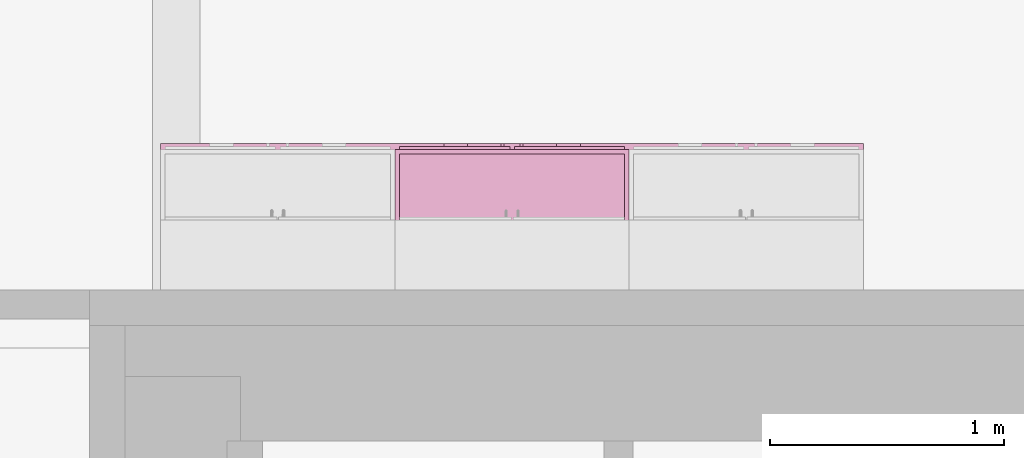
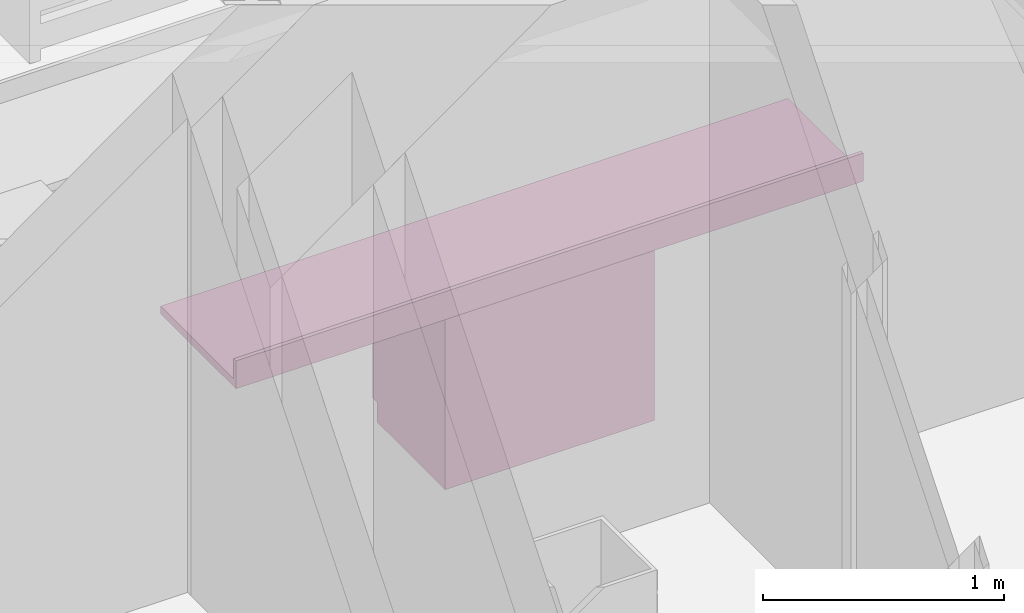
# One storey, part 15 of 18: 2 furnishings, 1 opening.
"""IFC4 building model written with IfcOpenShell, lengths in metres."""

from ifc_helpers import new_model, entity, si_unit, converted_unit, frame, frame_2d, origin, place, context, project, spatial, polyline, circle_curve, parameter, trimmed, segment, composite_curve, outline, extrude, face_set, surface_model, source, transform, mapped, type_object, type_shapes, element, save


model = new_model("IFC4")

# Units and contexts
model_context = context("Model", 3, precision=1e-09, world=origin())
plan_context = context("Plan", 3, precision=1e-09, world=origin())
ifc_project = project(units=[si_unit("LENGTHUNIT", "METRE"), si_unit("AREAUNIT", "SQUARE_METRE"), si_unit("VOLUMEUNIT", "CUBIC_METRE"), converted_unit("PLANEANGLEUNIT", "DEGREE", entity("IfcRatioMeasure", 0.01745329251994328), si_unit("PLANEANGLEUNIT", "RADIAN"), dimensions=[0, 0, 0, 0, 0, 0, 0]), si_unit("TIMEUNIT", "SECOND")], contexts=[model_context, plan_context])

# Site, building, storey, space
site_placement = place(None, origin())
site = spatial("IfcSite", under=ifc_project, at=site_placement, Name="Default", CompositionType="ELEMENT")
building_placement = place(site_placement, origin())
building = spatial("IfcBuilding", under=site, at=building_placement, CompositionType="ELEMENT")
storey_placement = place(building_placement, origin())
storey = spatial("IfcBuildingStorey", under=building, at=storey_placement, Name="Level 1", CompositionType="ELEMENT", Elevation=0.0)
space_placement = place(storey_placement, origin())
space = spatial("IfcSpace", under=storey, at=space_placement, Name="B103", CompositionType="ELEMENT", PredefinedType="SPACE")

# Furnishing
furniture_type_1 = type_object("IfcFurnitureType", Name="1000mm", AssemblyPlace="NOTDEFINED")
shared_shape_1 = source(origin(), model_context, "Body", "SurfaceModel", [
    surface_model("IfcFaceBasedSurfaceModel", [(0.9809499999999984, 0.04445000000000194, 0.8600000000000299), (0.9809499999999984, 0.04445000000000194, 0.0999999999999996), (0.01905000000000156, 0.04445000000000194, 0.0999999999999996), (0.01905000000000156, 0.04445000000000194, 0.8600000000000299), (1.0, 0.02540000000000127, 0.8600000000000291), (0.0, 0.02540000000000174, 0.8600000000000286), (1.0, 0.02540000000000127, 0.0999999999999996), (0.0, 0.02540000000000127, 0.09999999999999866), (0.01905000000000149, 0.606349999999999, 0.8600000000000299), (0.01905000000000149, 0.606349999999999, 0.09999999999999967), (0.01905000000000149, 0.06040000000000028, 0.0999999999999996), (0.0, 0.6253999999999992, 0.8600000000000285), (0.0, 0.6254000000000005, 0.0), (0.0, 0.06040000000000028, 0.0), (0.0, 0.06040000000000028, 0.09999999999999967), (0.9809499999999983, 0.6063499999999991, 0.8600000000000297), (0.9809499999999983, 0.6063499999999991, 0.09999999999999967), (1.0, 0.6253999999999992, 0.8600000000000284), (1.0, 0.6253999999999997, 0.0), (0.9809499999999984, 0.06040000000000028, 0.09999999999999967), (1.0, 0.06040000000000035, 0.09999999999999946), (1.0, 0.06040000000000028, 0.0), (0.3103250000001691, 0.0, 0.815550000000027), (0.3103250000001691, 0.0, 0.8028500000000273), (0.2087250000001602, 0.0, 0.8028500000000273), (0.2087250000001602, 0.0, 0.815550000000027), (0.7912750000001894, 0.0, 0.815550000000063), (0.7912750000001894, 0.0, 0.8028500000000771), (0.6896750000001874, 0.0, 0.8028500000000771), (0.6896750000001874, 0.0, 0.815550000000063), (0.4650750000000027, 0.0, 0.6822000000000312), (0.4650750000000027, 0.0, 0.5806000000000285), (0.4523750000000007, 0.0, 0.5806000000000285), (0.4523750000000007, 0.0, 0.6822000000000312), (0.5476249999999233, 0.0, 0.6822000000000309), (0.5476249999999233, 0.0, 0.5806000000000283), (0.5349249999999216, 0.0, 0.5806000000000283), (0.5349249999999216, 0.0, 0.6822000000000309), (0.3103250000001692, 0.01270000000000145, 0.815550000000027), (0.3103250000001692, 0.01270000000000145, 0.8028500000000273), (0.2087250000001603, 0.01270000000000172, 0.8028500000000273), (0.2087250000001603, 0.01270000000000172, 0.815550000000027), (0.7912750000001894, 0.01269999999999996, 0.815550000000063), (0.7912750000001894, 0.01269999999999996, 0.8028500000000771), (0.6896750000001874, 0.01270000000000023, 0.8028500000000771), (0.6896750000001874, 0.01270000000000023, 0.815550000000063), (0.4650750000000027, 0.0127000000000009, 0.6822000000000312), (0.4650750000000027, 0.0127000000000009, 0.5806000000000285), (0.4523750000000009, 0.0127000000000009, 0.5806000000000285), (0.4523750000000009, 0.0127000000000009, 0.6822000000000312), (0.5476249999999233, 0.01270000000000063, 0.6822000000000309), (0.5476249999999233, 0.01270000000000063, 0.5806000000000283), (0.5349249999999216, 0.01270000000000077, 0.5806000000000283), (0.5349249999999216, 0.01270000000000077, 0.6822000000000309), (0.4904749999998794, 0.0127000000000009, 0.840950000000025), (0.4904749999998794, 0.0127000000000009, 0.7393500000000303), (0.01905000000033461, 0.01270000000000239, 0.7393500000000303), (0.01905000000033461, 0.01270000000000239, 0.840950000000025), (0.9809500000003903, 0.01269999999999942, 0.8409500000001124), (0.9809500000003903, 0.01269999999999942, 0.7393500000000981), (0.509524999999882, 0.0127000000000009, 0.7393500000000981), (0.509524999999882, 0.0127000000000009, 0.8409500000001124), (0.4904749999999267, 0.0127000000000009, 0.7203000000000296), (0.4904749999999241, 0.0127000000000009, 0.119049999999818), (0.01905000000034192, 0.01270000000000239, 0.119049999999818), (0.01905000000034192, 0.01270000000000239, 0.7203000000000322), (0.9809500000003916, 0.01269999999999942, 0.7203000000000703), (0.9809500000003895, 0.01269999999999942, 0.1190499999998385), (0.5095249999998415, 0.0127000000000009, 0.1190499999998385), (0.5095249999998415, 0.0127000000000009, 0.7203000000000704), (0.4904749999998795, 0.02540000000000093, 0.840950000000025), (0.4904749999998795, 0.02540000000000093, 0.7393500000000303), (0.01905000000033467, 0.02540000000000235, 0.7393500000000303), (0.01905000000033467, 0.02540000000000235, 0.840950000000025), (0.9809500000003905, 0.02539999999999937, 0.8409500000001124), (0.9809500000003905, 0.02539999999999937, 0.7393500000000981), (0.5095249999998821, 0.02540000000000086, 0.7393500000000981), (0.5095249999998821, 0.02540000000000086, 0.8409500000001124), (0.4904749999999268, 0.02540000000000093, 0.7203000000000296), (0.4904749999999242, 0.02540000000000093, 0.119049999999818), (0.01905000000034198, 0.02540000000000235, 0.119049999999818), (0.01905000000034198, 0.02540000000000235, 0.7203000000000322), (0.9809500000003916, 0.02539999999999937, 0.7203000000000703), (0.9809500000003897, 0.02539999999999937, 0.1190499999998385), (0.5095249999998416, 0.02540000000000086, 0.1190499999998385), (0.5095249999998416, 0.02540000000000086, 0.7203000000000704), (0.9809499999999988, 0.6063499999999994, 0.1190499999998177), (0.9809499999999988, 0.04445000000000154, 0.1190499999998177), (0.01905000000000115, 0.04445000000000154, 0.1190499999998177), (0.01905000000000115, 0.6063499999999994, 0.1190499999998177), (0.9809499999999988, 0.6063499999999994, 0.09999999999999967), (0.9809499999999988, 0.04445000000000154, 0.09999999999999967), (0.01905000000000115, 0.04445000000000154, 0.09999999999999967), (0.01905000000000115, 0.6063499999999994, 0.09999999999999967)], [face_set([[[0, 1, 2, 3]], [[0, 4, 5, 3]], [[4, 6, 7, 5]], [[2, 1, 6, 7]], [[3, 8, 9, 10, 2]], [[5, 11, 8, 3]], [[7, 5, 11, 12, 13, 14]], [[2, 7, 14, 10]], [[8, 15, 16, 9]], [[11, 17, 15, 8]], [[12, 11, 17, 18]], [[1, 19, 16, 15, 0]], [[0, 15, 17, 4]], [[4, 6, 20, 21, 18, 17]], [[6, 1, 19, 20]], [[10, 9, 16, 19]], [[18, 21, 13, 12]], [[13, 14, 10, 19, 20, 21]]]), face_set([[[22, 23, 24, 25]], [[26, 27, 28, 29]], [[30, 31, 32, 33]], [[34, 35, 36, 37]], [[38, 39, 40, 41]], [[42, 43, 44, 45]], [[46, 47, 48, 49]], [[50, 51, 52, 53]], [[25, 41, 38, 22]], [[24, 40, 41, 25]], [[23, 24, 40, 39]], [[22, 23, 39, 38]], [[29, 45, 42, 26]], [[28, 44, 45, 29]], [[27, 28, 44, 43]], [[26, 27, 43, 42]], [[33, 49, 46, 30]], [[32, 48, 49, 33]], [[31, 32, 48, 47]], [[30, 31, 47, 46]], [[37, 53, 50, 34]], [[36, 52, 53, 37]], [[35, 36, 52, 51]], [[34, 35, 51, 50]]]), face_set([[[54, 55, 56, 57]], [[58, 59, 60, 61]], [[62, 63, 64, 65]], [[66, 67, 68, 69]], [[70, 71, 72, 73]], [[74, 75, 76, 77]], [[78, 79, 80, 81]], [[82, 83, 84, 85]], [[57, 73, 70, 54]], [[56, 57, 73, 72]], [[55, 56, 72, 71]], [[54, 55, 71, 70]], [[61, 77, 74, 58]], [[60, 76, 77, 61]], [[59, 60, 76, 75]], [[58, 59, 75, 74]], [[65, 81, 78, 62]], [[64, 65, 81, 80]], [[63, 64, 80, 79]], [[62, 63, 79, 78]], [[69, 85, 82, 66]], [[68, 84, 85, 69]], [[67, 68, 84, 83]], [[66, 67, 83, 82]]]), face_set([[[86, 87, 88, 89]], [[90, 91, 92, 93]], [[89, 86, 90, 93]], [[88, 89, 93, 92]], [[87, 91, 92, 88]], [[86, 87, 91, 90]]])]),
])
type_shapes(furniture_type_1, [shared_shape_1])
furnishing_1_placement = place(space_placement, frame((6.333999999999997, -6.804599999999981, 0.0), z_axis=(0.0, 0.0, 1.0), x_axis=(-1.0, 0.0, 0.0)))
element("IfcFurnishingElement", 1, at=furnishing_1_placement, inside=space, type_object=furniture_type_1, Name="M_Base Cabinet-Double Door & 2 Drawer:1000mm:1000mm", ObjectType="1000mm", context=model_context, shape_type="MappedRepresentation", body=[
    mapped(shared_shape_1, transform((0.0, 0.0, 0.0), scale=1.0)),
])

# Furnishing, opening
furniture_type_2 = type_object("IfcFurnitureType", Name="600mm Depth", AssemblyPlace="NOTDEFINED")
shared_shape_2 = source(origin(), model_context, "Body", "SweptSolid", [
    extrude(outline(polyline([(-0.0605333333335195, -0.2146833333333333), (0.08106666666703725, -0.2146833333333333), (0.08106666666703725, -0.1956333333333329), (-0.02053333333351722, -0.1956333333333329), (-0.02053333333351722, 0.4103166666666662), (-0.0605333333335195, 0.4103166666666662), (-0.0605333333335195, -0.2146833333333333)])), frame((-1.200462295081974, -0.2146833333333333, 0.920533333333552), z_axis=(1.0, 0.0, 0.0), x_axis=(0.0, 0.0, 1.0)), (0.0, 0.0, 1.0), 3.0),
])
type_shapes(furniture_type_2, [shared_shape_2])
furnishing_2_placement = place(space_placement, frame((6.133437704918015, -7.429999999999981, 0.0), z_axis=(0.0, 0.0, 1.0), x_axis=(-1.0, 0.0, 0.0)))
furnishing_2 = element("IfcFurnishingElement", 2, at=furnishing_2_placement, inside=space, type_object=furniture_type_2, Name="M_Counter Top w Sink Hole:600mm Depth:600mm Depth", ObjectType="600mm Depth", context=model_context, shape_type="MappedRepresentation", body=[
    mapped(shared_shape_2, transform((0.0, 0.0, 0.0), scale=1.0)),
])
opening_placement = place(space_placement, frame((6.133437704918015, -7.429999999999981, 0.0), z_axis=(0.0, 0.0, 1.0), x_axis=(-1.0, 0.0, 0.0)))
element("IfcOpeningElement", 3, at=opening_placement, cuts=furnishing_2, Name="M_Counter Top w Sink Hole:600mm Depth:600mm Depth:1", ObjectType="Opening", context=model_context, shape_type="SweptSolid", body=[
    extrude(outline(composite_curve([segment(polyline([(-0.1523000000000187, -0.2017000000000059), (0.1523000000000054, -0.201700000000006)]), True, "CONTINUOUS"), segment(trimmed(circle_curve(frame_2d((0.1523000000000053, -0.1508999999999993), x_axis=(1.0, 0.0)), 0.05080000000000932), [parameter(92.33515524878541)], [parameter(92.33515524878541)], True, "PARAMETER"), True, "CONTINUOUS"), segment(polyline([(0.2031000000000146, -0.150899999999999), (0.2031000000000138, 0.1509000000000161)]), True, "CONTINUOUS"), segment(trimmed(circle_curve(frame_2d((0.1523000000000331, 0.1509000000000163), x_axis=(1.0, 0.0)), 0.05079999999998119), [parameter(92.33515524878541)], [parameter(92.33515524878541)], True, "PARAMETER"), True, "CONTINUOUS"), segment(polyline([(0.152300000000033, 0.2016999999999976), (-0.1523000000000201, 0.2016999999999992)]), True, "CONTINUOUS"), segment(trimmed(circle_curve(frame_2d((-0.1523000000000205, 0.1509000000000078), x_axis=(1.0, 0.0)), 0.0507999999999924), [parameter(92.33515524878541)], [parameter(92.33515524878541)], True, "PARAMETER"), True, "CONTINUOUS"), segment(polyline([(-0.203100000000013, 0.1509000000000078), (-0.2031000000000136, -0.1509000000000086)]), True, "CONTINUOUS"), segment(trimmed(circle_curve(frame_2d((-0.1523000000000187, -0.1509000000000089), x_axis=(1.0, 0.0)), 0.05079999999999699), [parameter(92.33515524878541)], [parameter(92.33515524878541)], True, "PARAMETER"), True, "CONTINUOUS")], self_intersect=False)), frame((-0.2995377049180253, 0.289000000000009, 0.9000000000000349), z_axis=(0.0, 0.0, -1.0), x_axis=(-1.0, 0.0, 0.0)), (0.0, 0.0, 1.0), 0.04000000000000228),
])

save(model, "model.ifc")
